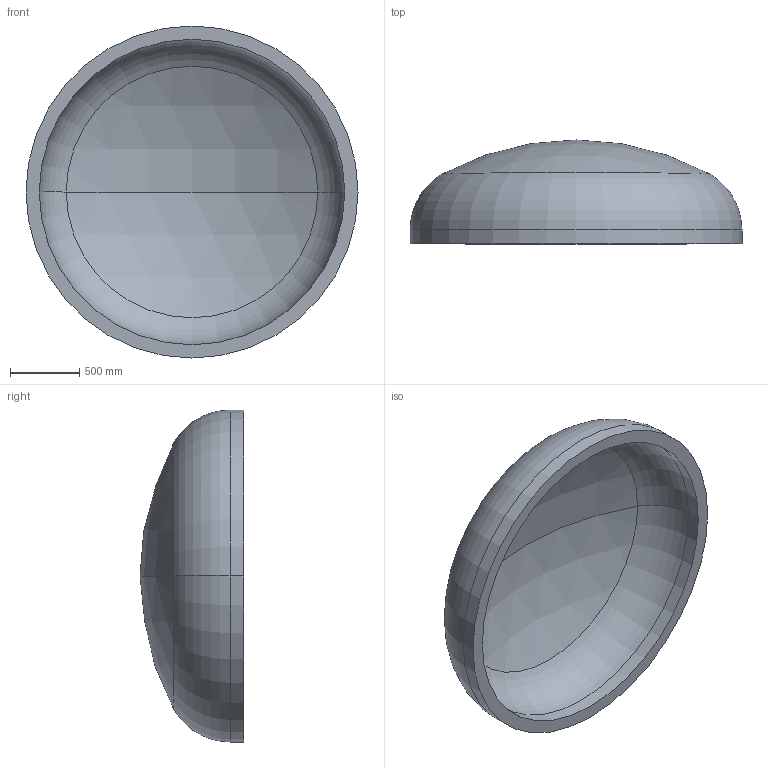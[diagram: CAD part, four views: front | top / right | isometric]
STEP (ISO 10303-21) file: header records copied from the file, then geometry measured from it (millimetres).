
FILE_DESCRIPTION (( 'STEP AP203' ), '1' );
FILE_NAME ('DIN 28013 Korbbogenform_-_Boden DIN 28013 - 2400 x 100 - I - s=96.step', '2016-07-01T15:40:55', ( '' ), ( '' ), 'SwSTEP 2.0', 'SolidWorks 2013', '' );
FILE_SCHEMA (( 'CONFIG_CONTROL_DESIGN' ));
Length unit declared in the file: millimetre
Products named in the file (1): DIN 28013 Korbbogenform_-_Boden DIN 28013 - 2400 x 100 - I - s=96
Bounding box: 2400 x 750.81 x 2400 mm (x, y, z)
Volume: 640723365.5 mm3; surface area: 14062571.4 mm2
Topology: 1 solids, 1 shells, 13 faces, 24 edges, 14 vertices
Faces by surface type: torus 4, cylinder 4, sphere 4, plane 1
Entity records: 407 total; most frequent: DIRECTION 72, CARTESIAN_POINT 52, ORIENTED_EDGE 48, AXIS2_PLACEMENT_3D 34, EDGE_CURVE 24, CIRCLE 20, EDGE_LOOP 14, VERTEX_POINT 14
